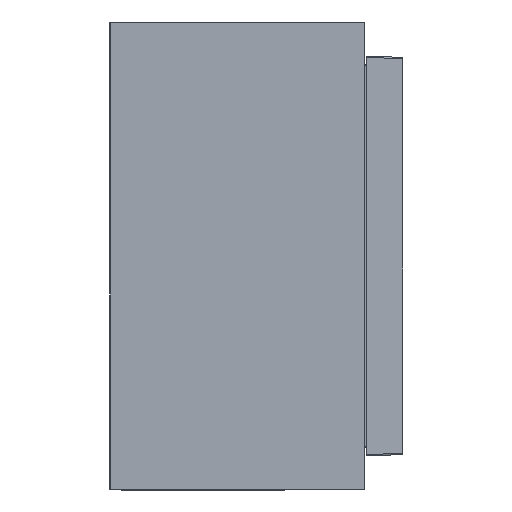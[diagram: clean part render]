
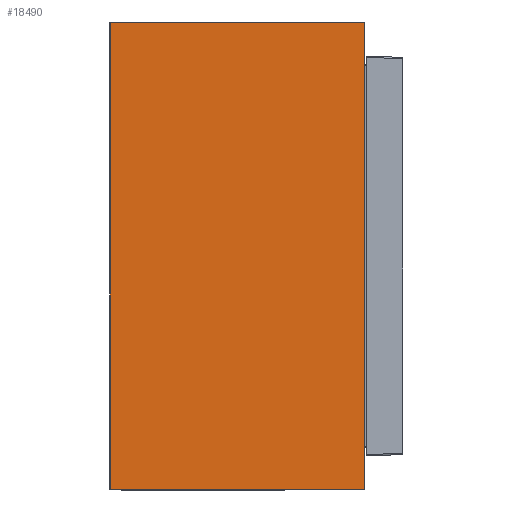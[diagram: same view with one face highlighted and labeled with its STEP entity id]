
A CAD part, left-side view. The second image highlights one B-rep face of the part: STEP entity #18490.
In plain terms, the highlighted planar face has unit normal (-1, 0.009, 0).
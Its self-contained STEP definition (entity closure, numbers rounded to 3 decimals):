
#17834=CARTESIAN_POINT('',(-30.524,-6.,54.8));
#17864=CARTESIAN_POINT('',(-30.524,-6.,-54.8));
#17872=DIRECTION('',(0.,0.,1.));
#17873=VECTOR('',#17872,109.6);
#17874=CARTESIAN_POINT('',(-30.524,-6.,-54.8));
#17875=LINE('',#17874,#17873);
#18100=DIRECTION('',(-0.009,-1.,0.));
#18101=VECTOR('',#18100,59.804);
#18102=CARTESIAN_POINT('',(-30.002,53.802,54.8));
#18103=LINE('',#18102,#18101);
#18104=DIRECTION('',(-0.009,-1.,0.));
#18105=VECTOR('',#18104,59.804);
#18106=CARTESIAN_POINT('',(-30.002,53.802,-54.8));
#18107=LINE('',#18106,#18105);
#18108=DIRECTION('',(0.,0.,1.));
#18109=VECTOR('',#18108,109.6);
#18110=CARTESIAN_POINT('',(-30.002,53.802,-54.8));
#18111=LINE('',#18110,#18109);
#18257=VERTEX_POINT('',#17834);
#18258=CARTESIAN_POINT('',(-30.002,53.802,54.8));
#18259=VERTEX_POINT('',#18258);
#18262=CARTESIAN_POINT('',(-30.002,53.802,-54.8));
#18263=VERTEX_POINT('',#18262);
#18264=VERTEX_POINT('',#17864);
#18476=CARTESIAN_POINT('',(-30.,54.,-56.12));
#18477=DIRECTION('',(-1.,0.009,0.));
#18478=DIRECTION('',(0.,0.,1.));
#18479=AXIS2_PLACEMENT_3D('',#18476,#18477,#18478);
#18480=PLANE('',#18479);
#18482=ORIENTED_EDGE('',*,*,#18481,.T.);
#18483=ORIENTED_EDGE('',*,*,#18347,.F.);
#18485=ORIENTED_EDGE('',*,*,#18484,.F.);
#18487=ORIENTED_EDGE('',*,*,#18486,.T.);
#18488=EDGE_LOOP('',(#18482,#18483,#18485,#18487));
#18489=FACE_OUTER_BOUND('',#18488,.F.);
#18490=ADVANCED_FACE('',(#18489),#18480,.T.);
#18347=EDGE_CURVE('',#18264,#18257,#17875,.T.);
#18481=EDGE_CURVE('',#18259,#18257,#18103,.T.);
#18484=EDGE_CURVE('',#18263,#18264,#18107,.T.);
#18486=EDGE_CURVE('',#18263,#18259,#18111,.T.);
